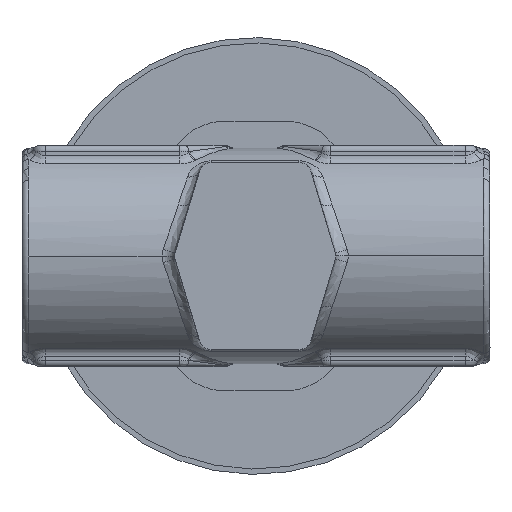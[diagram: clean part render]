
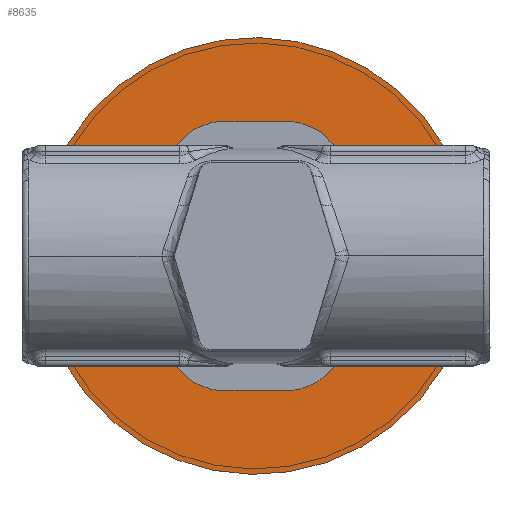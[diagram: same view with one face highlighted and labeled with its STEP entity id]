
A CAD part, front view. The second image highlights one B-rep face of the part: STEP entity #8635.
In plain terms, the highlighted planar face has unit normal (0, -1, 0).
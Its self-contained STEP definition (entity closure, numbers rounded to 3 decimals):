
#2097=CARTESIAN_POINT('',(0.,-3.847,0.));
#2098=DIRECTION('',(0.,-1.,0.));
#2099=DIRECTION('',(-1.,0.,0.));
#2100=AXIS2_PLACEMENT_3D('',#2097,#2098,#2099);
#2114=CARTESIAN_POINT('',(0.,-3.847,0.));
#2115=DIRECTION('',(0.,-1.,0.));
#2116=DIRECTION('',(1.,0.,-0.018));
#2117=AXIS2_PLACEMENT_3D('',#2114,#2115,#2116);
#2123=CARTESIAN_POINT('',(0.,-3.847,0.));
#2124=DIRECTION('',(0.,1.,0.));
#2125=DIRECTION('',(1.,0.,-0.018));
#2126=AXIS2_PLACEMENT_3D('',#2123,#2124,#2125);
#3048=CARTESIAN_POINT('',(0.,-3.847,0.));
#3049=DIRECTION('',(0.,-1.,0.));
#3050=DIRECTION('',(1.,0.,0.));
#3051=AXIS2_PLACEMENT_3D('',#3048,#3049,#3050);
#5019=CARTESIAN_POINT('',(34.995,-3.847,
-0.619));
#5021=VERTEX_POINT('',#5019);
#5037=CARTESIAN_POINT('',(-34.995,-3.847,
0.619));
#5039=VERTEX_POINT('',#5037);
#5738=CARTESIAN_POINT('',(18.,-3.847,0.));
#5739=CARTESIAN_POINT('',(-18.,-3.847,0.));
#5740=VERTEX_POINT('',#5738);
#5741=VERTEX_POINT('',#5739);
#8619=CARTESIAN_POINT('',(0.,-3.847,0.));
#8620=DIRECTION('',(0.,1.,0.));
#8621=DIRECTION('',(1.,0.,-0.018));
#8622=AXIS2_PLACEMENT_3D('',#8619,#8620,#8621);
#8623=PLANE('',#8622);
#8625=ORIENTED_EDGE('',*,*,#8624,.F.);
#8627=ORIENTED_EDGE('',*,*,#8626,.T.);
#8628=EDGE_LOOP('',(#8625,#8627));
#8629=FACE_OUTER_BOUND('',#8628,.F.);
#8631=ORIENTED_EDGE('',*,*,#8630,.T.);
#8632=ORIENTED_EDGE('',*,*,#8609,.T.);
#8633=EDGE_LOOP('',(#8631,#8632));
#8634=FACE_BOUND('',#8633,.F.);
#8635=ADVANCED_FACE('',(#8629,#8634),#8623,.F.);
#2101=CIRCLE('',#2100,18.);
#2118=CIRCLE('',#2117,35.);
#2127=CIRCLE('',#2126,35.);
#3052=CIRCLE('',#3051,18.);
#8609=EDGE_CURVE('',#5741,#5740,#2101,.T.);
#8624=EDGE_CURVE('',#5021,#5039,#2118,.T.);
#8626=EDGE_CURVE('',#5021,#5039,#2127,.T.);
#8630=EDGE_CURVE('',#5740,#5741,#3052,.T.);
